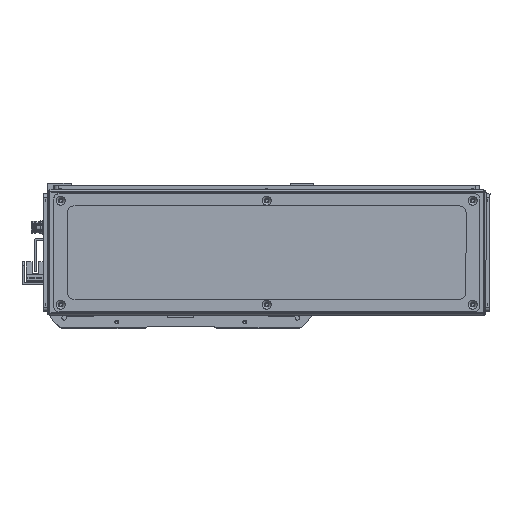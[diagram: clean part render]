
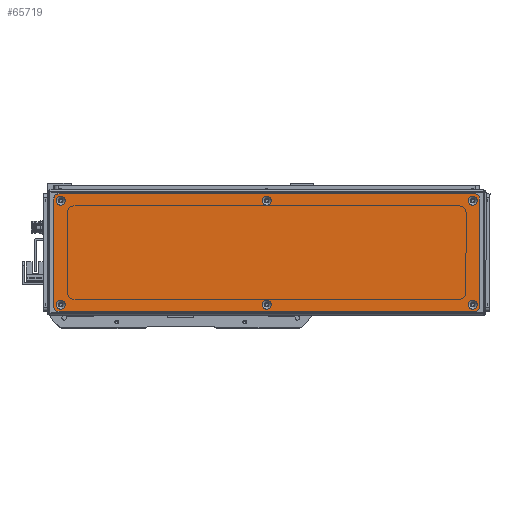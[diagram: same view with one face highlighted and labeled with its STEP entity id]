
A CAD part, front view. The second image highlights one B-rep face of the part: STEP entity #65719.
In plain terms, the highlighted planar face has unit normal (0, -1, 0).
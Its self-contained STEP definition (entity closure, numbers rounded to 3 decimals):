
#2825=FACE_BOUND('',#11151,.T.);
#2826=FACE_BOUND('',#11152,.T.);
#2827=FACE_BOUND('',#11153,.T.);
#2828=FACE_BOUND('',#11154,.T.);
#2829=FACE_BOUND('',#11155,.T.);
#2830=FACE_BOUND('',#11156,.T.);
#4107=CIRCLE('',#70663,3.45);
#4110=CIRCLE('',#70668,3.45);
#4113=CIRCLE('',#70673,3.45);
#4116=CIRCLE('',#70678,3.45);
#4119=CIRCLE('',#70683,3.45);
#4122=CIRCLE('',#70688,3.45);
#4125=CIRCLE('',#70693,3.);
#4127=CIRCLE('',#70696,3.);
#4128=CIRCLE('',#70697,3.);
#4129=CIRCLE('',#70698,3.);
#7388=FACE_OUTER_BOUND('',#11150,.T.);
#11150=EDGE_LOOP('',(#58513,#58514,#58515,#58516,#58517,#58518,#58519,#58520));
#11151=EDGE_LOOP('',(#58521));
#11152=EDGE_LOOP('',(#58522));
#11153=EDGE_LOOP('',(#58523));
#11154=EDGE_LOOP('',(#58524));
#11155=EDGE_LOOP('',(#58525));
#11156=EDGE_LOOP('',(#58526));
#18464=LINE('',#107774,#25882);
#18465=LINE('',#107778,#25883);
#18466=LINE('',#107782,#25884);
#18467=LINE('',#107785,#25885);
#25882=VECTOR('',#86782,10.);
#25883=VECTOR('',#86785,10.);
#25884=VECTOR('',#86788,10.);
#25885=VECTOR('',#86791,10.);
#31980=VERTEX_POINT('',#107704);
#31983=VERTEX_POINT('',#107714);
#31986=VERTEX_POINT('',#107724);
#31989=VERTEX_POINT('',#107734);
#31992=VERTEX_POINT('',#107744);
#31995=VERTEX_POINT('',#107754);
#31998=VERTEX_POINT('',#107764);
#31999=VERTEX_POINT('',#107765);
#32002=VERTEX_POINT('',#107773);
#32003=VERTEX_POINT('',#107775);
#32004=VERTEX_POINT('',#107777);
#32005=VERTEX_POINT('',#107779);
#32006=VERTEX_POINT('',#107781);
#32007=VERTEX_POINT('',#107783);
#40906=EDGE_CURVE('',#31980,#31980,#4107,.T.);
#40911=EDGE_CURVE('',#31983,#31983,#4110,.T.);
#40916=EDGE_CURVE('',#31986,#31986,#4113,.T.);
#40921=EDGE_CURVE('',#31989,#31989,#4116,.T.);
#40926=EDGE_CURVE('',#31992,#31992,#4119,.T.);
#40931=EDGE_CURVE('',#31995,#31995,#4122,.T.);
#40936=EDGE_CURVE('',#31998,#31999,#4125,.T.);
#40940=EDGE_CURVE('',#31998,#32002,#18464,.T.);
#40941=EDGE_CURVE('',#32003,#32002,#4127,.T.);
#40942=EDGE_CURVE('',#32003,#32004,#18465,.T.);
#40943=EDGE_CURVE('',#32005,#32004,#4128,.T.);
#40944=EDGE_CURVE('',#32005,#32006,#18466,.T.);
#40945=EDGE_CURVE('',#32007,#32006,#4129,.T.);
#40946=EDGE_CURVE('',#32007,#31999,#18467,.T.);
#58513=ORIENTED_EDGE('',*,*,#40936,.F.);
#58514=ORIENTED_EDGE('',*,*,#40940,.T.);
#58515=ORIENTED_EDGE('',*,*,#40941,.F.);
#58516=ORIENTED_EDGE('',*,*,#40942,.T.);
#58517=ORIENTED_EDGE('',*,*,#40943,.F.);
#58518=ORIENTED_EDGE('',*,*,#40944,.T.);
#58519=ORIENTED_EDGE('',*,*,#40945,.F.);
#58520=ORIENTED_EDGE('',*,*,#40946,.T.);
#58521=ORIENTED_EDGE('',*,*,#40906,.T.);
#58522=ORIENTED_EDGE('',*,*,#40911,.T.);
#58523=ORIENTED_EDGE('',*,*,#40916,.T.);
#58524=ORIENTED_EDGE('',*,*,#40921,.T.);
#58525=ORIENTED_EDGE('',*,*,#40926,.T.);
#58526=ORIENTED_EDGE('',*,*,#40931,.T.);
#62578=PLANE('',#70695);
#65719=ADVANCED_FACE('',(#7388,#2825,#2826,#2827,#2828,#2829,#2830),#62578,
 .T.);
#70663=AXIS2_PLACEMENT_3D('',#107705,#86702,#86703);
#70668=AXIS2_PLACEMENT_3D('',#107715,#86714,#86715);
#70673=AXIS2_PLACEMENT_3D('',#107725,#86726,#86727);
#70678=AXIS2_PLACEMENT_3D('',#107735,#86738,#86739);
#70683=AXIS2_PLACEMENT_3D('',#107745,#86750,#86751);
#70688=AXIS2_PLACEMENT_3D('',#107755,#86762,#86763);
#70693=AXIS2_PLACEMENT_3D('',#107766,#86774,#86775);
#70695=AXIS2_PLACEMENT_3D('',#107772,#86780,#86781);
#70696=AXIS2_PLACEMENT_3D('',#107776,#86783,#86784);
#70697=AXIS2_PLACEMENT_3D('',#107780,#86786,#86787);
#70698=AXIS2_PLACEMENT_3D('',#107784,#86789,#86790);
#86702=DIRECTION('center_axis',(0.,1.,0.));
#86703=DIRECTION('ref_axis',(1.,0.,0.));
#86714=DIRECTION('center_axis',(0.,1.,0.));
#86715=DIRECTION('ref_axis',(1.,0.,0.));
#86726=DIRECTION('center_axis',(0.,1.,0.));
#86727=DIRECTION('ref_axis',(1.,0.,0.));
#86738=DIRECTION('center_axis',(0.,1.,0.));
#86739=DIRECTION('ref_axis',(1.,0.,0.));
#86750=DIRECTION('center_axis',(0.,1.,0.));
#86751=DIRECTION('ref_axis',(1.,0.,0.));
#86762=DIRECTION('center_axis',(0.,1.,0.));
#86763=DIRECTION('ref_axis',(1.,0.,0.));
#86774=DIRECTION('center_axis',(0.,1.,0.));
#86775=DIRECTION('ref_axis',(-0.707,0.,0.707));
#86780=DIRECTION('center_axis',(0.,-1.,0.));
#86781=DIRECTION('ref_axis',(0.,0.,-1.));
#86782=DIRECTION('',(0.,0.,-1.));
#86783=DIRECTION('center_axis',(0.,1.,0.));
#86784=DIRECTION('ref_axis',(-0.707,0.,-0.707));
#86785=DIRECTION('',(1.,0.,0.));
#86786=DIRECTION('center_axis',(0.,1.,0.));
#86787=DIRECTION('ref_axis',(0.707,0.,-0.707));
#86788=DIRECTION('',(0.,0.,1.));
#86789=DIRECTION('center_axis',(0.,1.,0.));
#86790=DIRECTION('ref_axis',(0.707,0.,0.707));
#86791=DIRECTION('',(-1.,0.,0.));
#107704=CARTESIAN_POINT('',(151.05,-1.5,39.));
#107705=CARTESIAN_POINT('Origin',(154.5,-1.5,39.));
#107714=CARTESIAN_POINT('',(-3.45,-1.5,39.));
#107715=CARTESIAN_POINT('Origin',(0.,-1.5,39.));
#107724=CARTESIAN_POINT('',(-157.95,-1.5,39.));
#107725=CARTESIAN_POINT('Origin',(-154.5,-1.5,39.));
#107734=CARTESIAN_POINT('',(-157.95,-1.5,-39.));
#107735=CARTESIAN_POINT('Origin',(-154.5,-1.5,-39.));
#107744=CARTESIAN_POINT('',(-3.45,-1.5,-39.));
#107745=CARTESIAN_POINT('Origin',(0.,-1.5,-39.));
#107754=CARTESIAN_POINT('',(151.05,-1.5,-39.));
#107755=CARTESIAN_POINT('Origin',(154.5,-1.5,-39.));
#107764=CARTESIAN_POINT('',(-159.5,-1.5,41.));
#107765=CARTESIAN_POINT('',(-156.5,-1.5,44.));
#107766=CARTESIAN_POINT('Origin',(-156.5,-1.5,41.));
#107772=CARTESIAN_POINT('Origin',(0.,-1.5,0.));
#107773=CARTESIAN_POINT('',(-159.5,-1.5,-41.));
#107774=CARTESIAN_POINT('',(-159.5,-1.5,44.));
#107775=CARTESIAN_POINT('',(-156.5,-1.5,-44.));
#107776=CARTESIAN_POINT('Origin',(-156.5,-1.5,-41.));
#107777=CARTESIAN_POINT('',(156.5,-1.5,-44.));
#107778=CARTESIAN_POINT('',(-159.5,-1.5,-44.));
#107779=CARTESIAN_POINT('',(159.5,-1.5,-41.));
#107780=CARTESIAN_POINT('Origin',(156.5,-1.5,-41.));
#107781=CARTESIAN_POINT('',(159.5,-1.5,41.));
#107782=CARTESIAN_POINT('',(159.5,-1.5,-44.));
#107783=CARTESIAN_POINT('',(156.5,-1.5,44.));
#107784=CARTESIAN_POINT('Origin',(156.5,-1.5,41.));
#107785=CARTESIAN_POINT('',(159.5,-1.5,44.));
